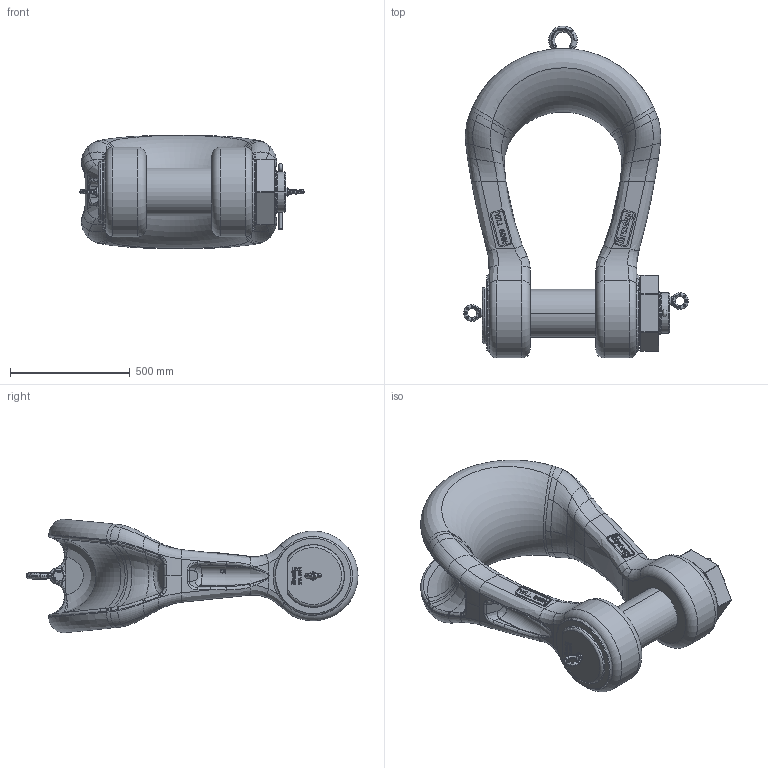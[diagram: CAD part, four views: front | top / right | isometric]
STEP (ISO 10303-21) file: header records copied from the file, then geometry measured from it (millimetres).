
FILE_DESCRIPTION((''),'2;1');
FILE_NAME('1021354_ASM','2024-09-04T11:38:30',('justin.lewis'),('The Crosby Group LLC'),'CREO PARAMETRIC BY PTC INC, 2021304','CREO PARAMETRIC BY PTC INC, 2021304','');
FILE_SCHEMA(('CONFIG_CONTROL_DESIGN','GEOMETRIC_VALIDATION_PROPERTIES_MIM'));
Length unit declared in the file: millimetre
Products named in the file (11): 0829-000600-D000-11; 0829-010600-D000-11; 3685583; 3702605; 1045995; 5552812; 5552625; 88345; 46872; 1019560_ASM; 1021354_ASM
Assembly tree (11 placements, depth 3):
  1021354_ASM
    0829-000600-D000-11
    0829-010600-D000-11
    3685583
    3702605
    1045995  x2
    1019560_ASM
      5552812
      5552625
      88345
      46872
Bounding box: 938.47 x 1386.9 x 474.45 mm (x, y, z)
Volume: 127684353.1 mm3; surface area: 3837693.5 mm2
Topology: 10 solids, 19 shells, 2823 faces, 10530 edges, 8456 vertices
Faces by surface type: extrusion 1048, plane 943, bspline 447, cylinder 134, torus 132, cone 84, revolution 35
Entity records: 227394 total; most frequent: CARTESIAN_POINT 123642, ORIENTED_EDGE 12308, PRESENTATION_STYLE_ASSIGNMENT 11817, STYLED_ITEM 11817, CURVE_STYLE 9485, DIRECTION 7814, EDGE_CURVE 6176, B_SPLINE_CURVE_WITH_KNOTS 5375
